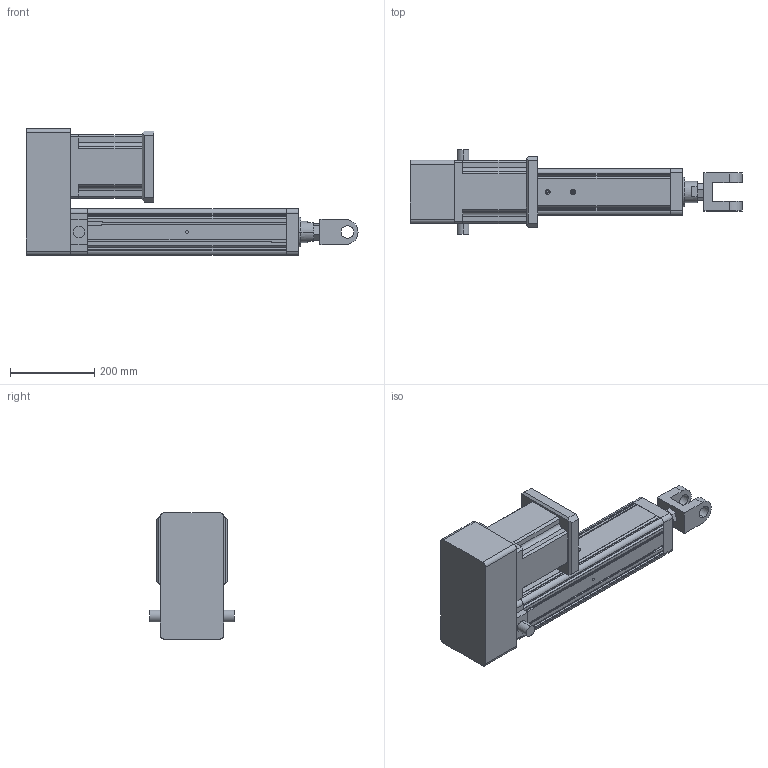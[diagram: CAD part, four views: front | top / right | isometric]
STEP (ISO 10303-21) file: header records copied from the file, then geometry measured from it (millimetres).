
FILE_DESCRIPTION (( 'STEP AP203' ), '1' );
FILE_NAME ('YRJ110-L300-H4K4.STEP', '2020-01-06T01:29:00', ( 'User' ), ( 'China' ), 'SwSTEP 2.0', 'SolidWorks 2016', '' );
FILE_SCHEMA (( 'CONFIG_CONTROL_DESIGN' ));
Length unit declared in the file: millimetre
Products named in the file (7): 142熬厒儂; K4-110; H5-110-1; YRJ110-L300-H4K4; H5-110-2; 095-100俴最倰第; 萇儂碟-110
Assembly tree (6 placements, depth 2):
  YRJ110-L300-H4K4
    095-100俴最倰第
    142熬厒儂
    H5-110-1
    H5-110-2
    萇儂碟-110
    K4-110
Bounding box: 786 x 200 x 300.5 mm (x, y, z)
Volume: 12025331.4 mm3; surface area: 936656 mm2
Topology: 6 solids, 6 shells, 331 faces, 904 edges, 585 vertices
Faces by surface type: plane 188, cylinder 116, cone 27
Entity records: 11430 total; most frequent: CARTESIAN_POINT 2153, DIRECTION 1793, ORIENTED_EDGE 1776, EDGE_CURVE 888, VECTOR 619, LINE 619, AXIS2_PLACEMENT_3D 587, VERTEX_POINT 585
